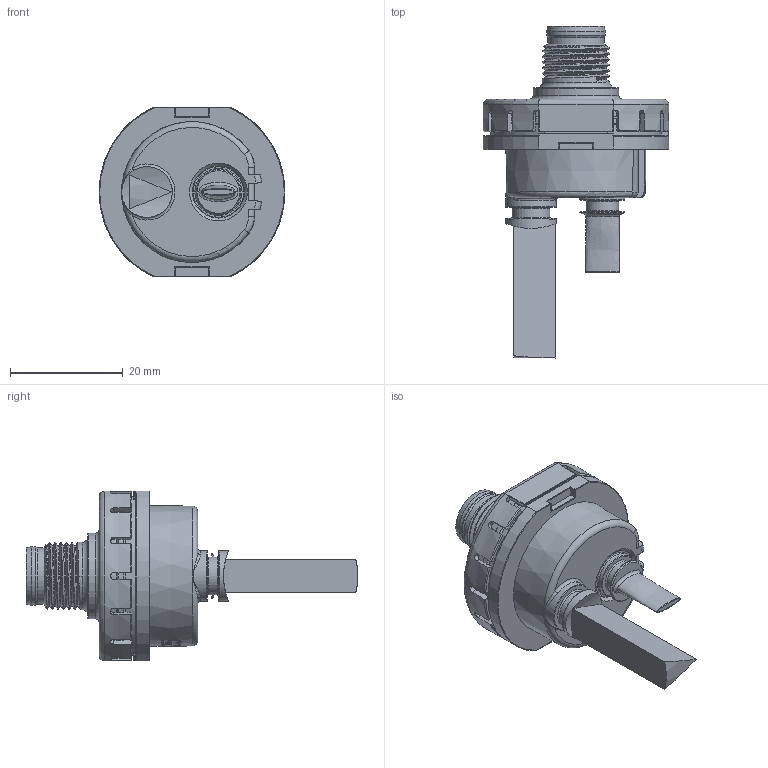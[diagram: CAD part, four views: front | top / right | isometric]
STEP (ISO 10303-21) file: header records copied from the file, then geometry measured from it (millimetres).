
FILE_DESCRIPTION(/* description */ (''),/* implementation_level */ '2;1');
FILE_NAME(/* name */ '201_x25x4x.stp',/* time_stamp */ '2023-04-06T17:18:04+02:00',/* author */ ('uch10180'),/* organization */ (''),/* preprocessor_version */ 'ST-DEVELOPER v19.2',/* originating_system */ 'Autodesk Inventor 2023',/* authorisation */ '');
FILE_SCHEMA (('AUTOMOTIVE_DESIGN { 1 0 10303 214 3 1 1 }'));
Length unit declared in the file: millimetre
Products named in the file (1): Vi15ACA179b5lx
Bounding box: 33 x 59 x 30.2 mm (x, y, z)
Volume: 12973.5 mm3; surface area: 6629.3 mm2
Topology: 1 solids, 1 shells, 544 faces, 1488 edges, 959 vertices
Faces by surface type: plane 192, cylinder 154, bspline 89, cone 64, torus 41, sphere 4
Full cylindrical faces by diameter (mm): 1 x3, 5.76 x1, 6.7 x1, 7.98 x2, 8.98 x3, 9.25 x1, 10 x1, 10.4 x1, 10.773 x5, 11.6 x1, 12 x5, 15.22 x1
Entity records: 26055 total; most frequent: CARTESIAN_POINT 12010, ORIENTED_EDGE 2968, DIRECTION 2662, EDGE_CURVE 1484, AXIS2_PLACEMENT_3D 1017, VERTEX_POINT 959, LINE 628, VECTOR 628
